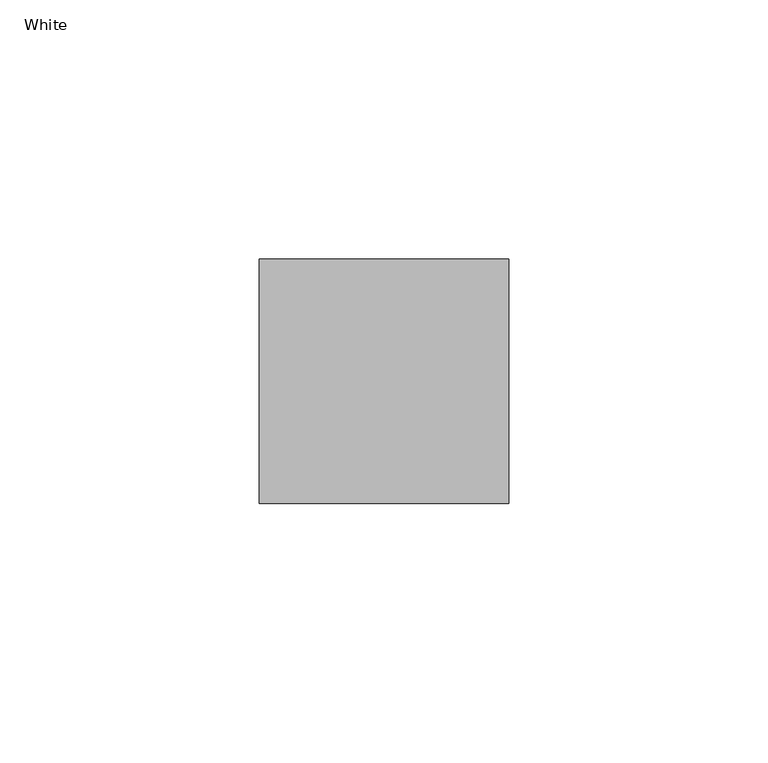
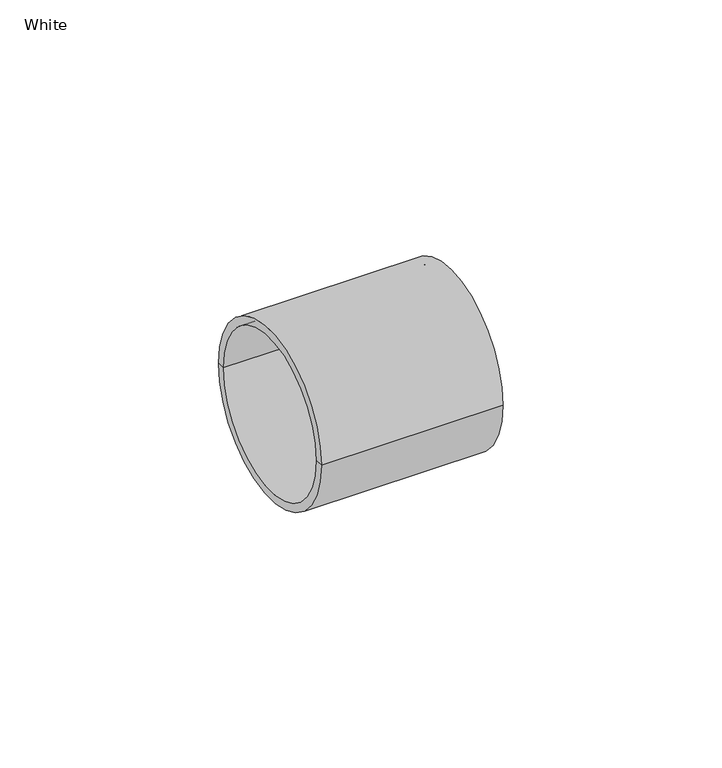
"""IFC4 building model written with IfcOpenShell, lengths in millimetres: pipe fitting geometry, Wavin_PipeFitting_S&WAbsSwSocketDouble : White."""

from ifc_helpers import new_model, si_unit, frame, origin, place, context, project, spatial, polyline, circle_curve, source, transform, mapped, element, save
from ifc_brep_helpers import plane_surface, cylinder_surface, revolved_surface, advanced_brep


def white_2de62ab8(model_context):
    return source(origin(), model_context, "Body", "AdvancedBrep", [
        advanced_brep(
        [(-23.0, -21.35, 0.0), (-23.0, 21.35, 0.0), (-23.0, 23.55, 0.0), (-23.0, -23.55, 0.0), (0.0, -21.35, 0.0), (0.0, 21.35, 0.0), (0.0, 0.0, 0.0), (2.0, -21.35, 0.0), (2.0, 21.35, 0.0), (2.0, 0.0, 0.0), (25.0, -21.35, 0.0), (25.0, 21.35, 0.0), (25.0, -23.55, 0.0), (25.0, 23.55, 0.0)],
        [
            (0, 1, circle_curve(frame((-23.0, 0.0, 0.0), z_axis=(1.0, 0.0, 0.0), x_axis=(0.0, 1.0, 0.0)), 21.35)),
            (1, 2),
            (2, 3, circle_curve(frame((-23.0, 0.0, 0.0), z_axis=(-1.0, 0.0, 0.0), x_axis=(0.0, 1.0, 0.0)), 23.55)),
            (3, 0),
            (1, 0, circle_curve(frame((-23.0, 0.0, 0.0), z_axis=(1.0, 0.0, 0.0), x_axis=(0.0, 1.0, 0.0)), 21.35)),
            (3, 2, circle_curve(frame((-23.0, 0.0, 0.0), z_axis=(-1.0, 0.0, 0.0), x_axis=(0.0, 1.0, 0.0)), 23.55)),
            (4, 5, circle_curve(frame((0.0, 0.0, 0.0), z_axis=(1.0, 0.0, 0.0), x_axis=(0.0, 1.0, 0.0)), 21.35)),
            (5, 1),
            (0, 4),
            (5, 4, circle_curve(frame((0.0, 0.0, 0.0), z_axis=(1.0, 0.0, 0.0), x_axis=(0.0, 1.0, 0.0)), 21.35)),
            (6, 5),
            (4, 6),
            (7, 8, circle_curve(frame((2.0, 0.0, 0.0), z_axis=(1.0, 0.0, 0.0), x_axis=(0.0, 1.0, 0.0)), 21.35)),
            (8, 9),
            (9, 7),
            (8, 7, circle_curve(frame((2.0, 0.0, 0.0), z_axis=(1.0, 0.0, 0.0), x_axis=(0.0, 1.0, 0.0)), 21.35)),
            (10, 11, circle_curve(frame((25.0, 0.0, 0.0), z_axis=(1.0, 0.0, 0.0), x_axis=(0.0, 1.0, 0.0)), 21.35)),
            (11, 8),
            (7, 10),
            (11, 10, circle_curve(frame((25.0, 0.0, 0.0), z_axis=(1.0, 0.0, 0.0), x_axis=(0.0, 1.0, 0.0)), 21.35)),
            (12, 13, circle_curve(frame((25.0, 0.0, 0.0), z_axis=(1.0, 0.0, 0.0), x_axis=(0.0, 1.0, 0.0)), 23.55)),
            (13, 11),
            (10, 12),
            (13, 12, circle_curve(frame((25.0, 0.0, 0.0), z_axis=(1.0, 0.0, 0.0), x_axis=(0.0, 1.0, 0.0)), 23.55)),
            (2, 13),
            (12, 3),
        ],
        [
            plane_surface(frame((-23.0, 0.0, 0.0), z_axis=(-1.0, 0.0, 0.0), x_axis=(0.0, 1.0, 0.0))),
            revolved_surface(polyline([(-23.0, 21.35, 0.0), (0.0, 21.35, 0.0)]), (1953.25, 0.0, 0.0), (-1.0, 0.0, 0.0)),
            plane_surface(frame((0.0, 0.0, 0.0), z_axis=(-1.0, 0.0, 0.0), x_axis=(0.0, 1.0, 0.0))),
            plane_surface(frame((2.0, 0.0, 0.0), z_axis=(1.0, 0.0, 0.0), x_axis=(0.0, 1.0, 0.0))),
            revolved_surface(polyline([(2.0, 21.35, 0.0), (25.0, 21.35, 0.0)]), (1953.25, 0.0, 0.0), (-1.0, 0.0, 0.0)),
            plane_surface(frame((25.0, 0.0, 0.0), z_axis=(1.0, 0.0, 0.0), x_axis=(0.0, 1.0, 0.0))),
            cylinder_surface(frame((1953.25, 0.0, 0.0), z_axis=(-1.0, 0.0, 0.0), x_axis=(0.0, 1.0, 0.0)), 23.55),
        ],
        [
            (0, [[1, 2, 3, 4]]),
            (0, [[5, -4, 6, -2]]),
            (1, [[7, 8, -1, 9]]),
            (1, [[10, -9, -5, -8]]),
            (2, [[11, -7, 12]]),
            (2, [[-12, -10, -11]]),
            (3, [[13, 14, 15]]),
            (3, [[16, -15, -14]]),
            (4, [[17, 18, -13, 19]]),
            (4, [[20, -19, -16, -18]]),
            (5, [[21, 22, -17, 23]]),
            (5, [[24, -23, -20, -22]]),
            (6, [[-3, 25, -21, 26]]),
            (6, [[-6, -26, -24, -25]]),
        ],
    ),
    ])


if __name__ == "__main__":
    model = new_model("IFC4")
    model_context = context("Model", 3, world=origin())
    ifc_project = project(units=[si_unit("LENGTHUNIT", "METRE", prefix="MILLI")], contexts=[model_context])
    site = spatial("IfcSite", under=ifc_project)
    building = spatial("IfcBuilding", under=site)
    placement = place(None, origin())
    white_shape = white_2de62ab8(model_context)
    element("IfcPipeFitting", 1, ObjectType="Wavin_PipeFitting_S&WAbsSwSocketDouble : White", at=placement, inside=building, context=model_context, shape_type="MappedRepresentation", body=[
        mapped(white_shape, transform((0.0, 0.0, 0.0), x_axis=(1.0, 0.0, 0.0), y_axis=(0.0, 1.0, 0.0), z_axis=(0.0, 0.0, 1.0))),
    ])
    save(model, "model.ifc")
